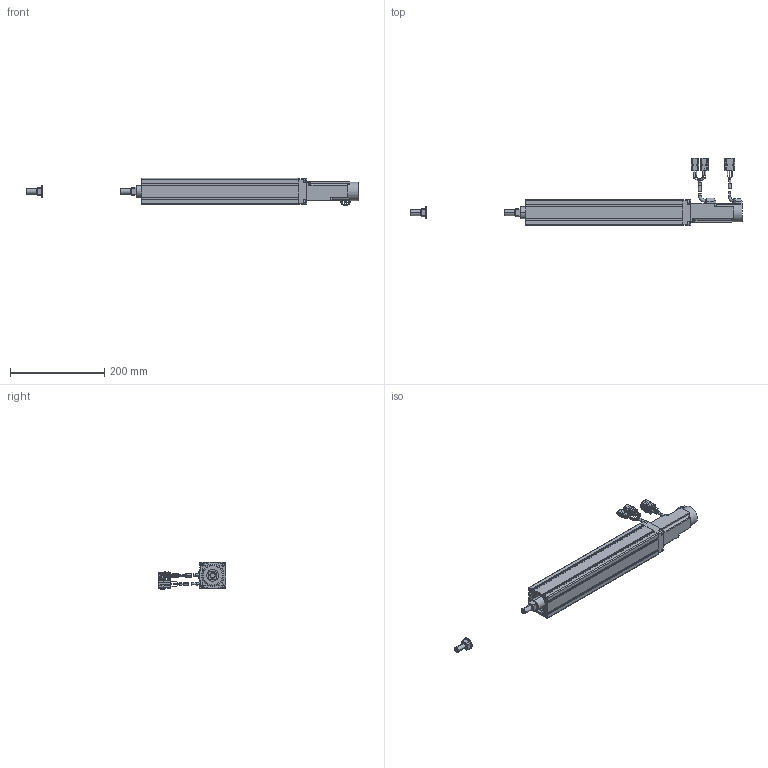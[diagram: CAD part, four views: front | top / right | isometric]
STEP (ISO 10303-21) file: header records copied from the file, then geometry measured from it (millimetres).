
FILE_DESCRIPTION((''),'2;1');
FILE_NAME('BET5E-ST-C_B-20_IGS_PRT','2017-06-18T',(' '),(''),'PRO/ENGINEER BY PARAMETRIC TECHNOLOGY CORPORATION, 2015030','PRO/ENGINEER BY PARAMETRIC TECHNOLOGY CORPORATION, 2015030','');
FILE_SCHEMA(('CONFIG_CONTROL_DESIGN'));
Length unit declared in the file: millimetre
Products named in the file (1): BET5E-ST-C_B-20_IGS_PRT
Bounding box: 704.1 x 142.99 x 57.56 mm (x, y, z)
Volume: 890526.9 mm3; surface area: 244628.8 mm2
Topology: 8 solids, 34 shells, 986 faces, 2605 edges, 1692 vertices
Faces by surface type: plane 649, cylinder 251, torus 62, cone 20, sphere 4
Entity records: 30637 total; most frequent: CARTESIAN_POINT 5605, DIRECTION 5197, ORIENTED_EDGE 5134, EDGE_CURVE 2595, VECTOR 1879, LINE 1879, VERTEX_POINT 1692, AXIS2_PLACEMENT_3D 1659
